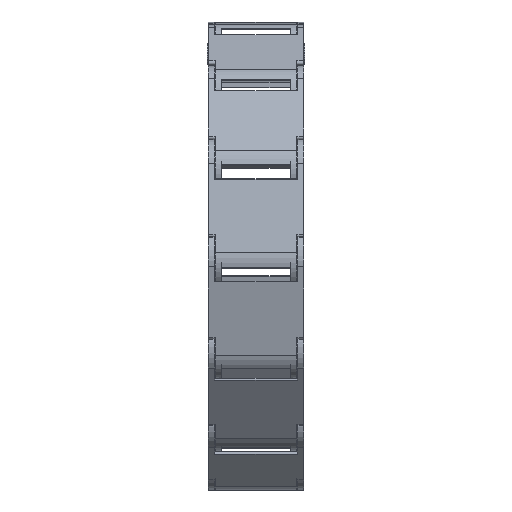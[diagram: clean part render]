
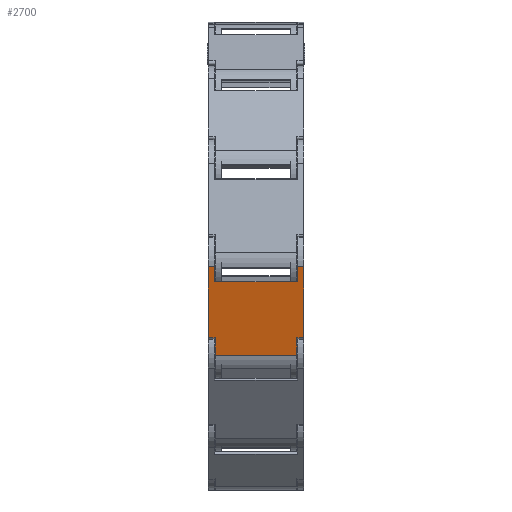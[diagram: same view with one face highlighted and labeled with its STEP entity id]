
A CAD part, front view. The second image highlights one B-rep face of the part: STEP entity #2700.
In plain terms, the highlighted planar face has unit normal (0, -0.972, -0.233) as drawn and (0, 0, -1) by its records, which use the part's own axes.
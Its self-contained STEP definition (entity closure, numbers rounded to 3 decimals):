
#340=DIRECTION('',(0.,1.,0.));
#341=VECTOR('',#340,26.775);
#342=CARTESIAN_POINT('',(-17.5,-33.5,-11.75));
#343=LINE('',#342,#341);
#424=DIRECTION('',(0.,1.,0.));
#425=VECTOR('',#424,6.725);
#426=CARTESIAN_POINT('',(-15.,-6.725,-11.75));
#427=LINE('',#426,#425);
#592=DIRECTION('',(1.,0.,0.));
#593=VECTOR('',#592,30.);
#594=CARTESIAN_POINT('',(-15.,0.,-11.75));
#595=LINE('',#594,#593);
#760=DIRECTION('',(0.,1.,0.));
#761=VECTOR('',#760,5.672);
#762=CARTESIAN_POINT('',(15.1,-33.5,-11.75));
#763=LINE('',#762,#761);
#928=DIRECTION('',(0.,-1.,0.));
#929=VECTOR('',#928,5.672);
#930=CARTESIAN_POINT('',(-15.1,-27.828,-11.75));
#931=LINE('',#930,#929);
#1112=DIRECTION('',(0.,-1.,0.));
#1113=VECTOR('',#1112,6.725);
#1114=CARTESIAN_POINT('',(15.,0.,-11.75));
#1115=LINE('',#1114,#1113);
#1219=DIRECTION('',(0.,1.,0.));
#1220=VECTOR('',#1219,26.775);
#1221=CARTESIAN_POINT('',(17.5,-33.5,-11.75));
#1222=LINE('',#1221,#1220);
#1299=DIRECTION('',(1.,0.,0.));
#1300=VECTOR('',#1299,2.5);
#1301=CARTESIAN_POINT('',(-17.5,-6.725,-11.75));
#1302=LINE('',#1301,#1300);
#1306=DIRECTION('',(1.,0.,0.));
#1307=VECTOR('',#1306,2.4);
#1308=CARTESIAN_POINT('',(-17.5,-33.5,-11.75));
#1309=LINE('',#1308,#1307);
#1313=DIRECTION('',(-1.,0.,0.));
#1314=VECTOR('',#1313,30.2);
#1315=CARTESIAN_POINT('',(15.1,-27.828,-11.75));
#1316=LINE('',#1315,#1314);
#1320=DIRECTION('',(1.,0.,0.));
#1321=VECTOR('',#1320,2.4);
#1322=CARTESIAN_POINT('',(15.1,-33.5,-11.75));
#1323=LINE('',#1322,#1321);
#1327=DIRECTION('',(1.,0.,0.));
#1328=VECTOR('',#1327,2.5);
#1329=CARTESIAN_POINT('',(15.,-6.725,-11.75));
#1330=LINE('',#1329,#1328);
#1462=CARTESIAN_POINT('',(-17.5,-33.5,-11.75));
#1464=VERTEX_POINT('',#1462);
#1466=CARTESIAN_POINT('',(17.5,-33.5,-11.75));
#1468=VERTEX_POINT('',#1466);
#1473=CARTESIAN_POINT('',(-15.1,-33.5,-11.75));
#1474=VERTEX_POINT('',#1473);
#1475=CARTESIAN_POINT('',(15.1,-33.5,-11.75));
#1476=VERTEX_POINT('',#1475);
#1493=CARTESIAN_POINT('',(15.1,-27.828,-11.75));
#1494=CARTESIAN_POINT('',(-15.1,-27.828,-11.75));
#1495=VERTEX_POINT('',#1493);
#1496=VERTEX_POINT('',#1494);
#1545=CARTESIAN_POINT('',(-15.,0.,-11.75));
#1546=CARTESIAN_POINT('',(15.,0.,-11.75));
#1547=VERTEX_POINT('',#1545);
#1548=VERTEX_POINT('',#1546);
#1557=CARTESIAN_POINT('',(-17.5,-6.725,-11.75));
#1558=VERTEX_POINT('',#1557);
#1559=CARTESIAN_POINT('',(-15.,-6.725,-11.75));
#1560=VERTEX_POINT('',#1559);
#1561=CARTESIAN_POINT('',(17.5,-6.725,-11.75));
#1563=VERTEX_POINT('',#1561);
#1567=CARTESIAN_POINT('',(15.,-6.725,-11.75));
#1568=VERTEX_POINT('',#1567);
#2679=CARTESIAN_POINT('',(-17.5,-33.5,-11.75));
#2680=DIRECTION('',(0.,0.,-1.));
#2681=DIRECTION('',(0.,1.,0.));
#2682=AXIS2_PLACEMENT_3D('',#2679,#2680,#2681);
#2683=PLANE('',#2682);
#2685=ORIENTED_EDGE('',*,*,#2684,.F.);
#2686=ORIENTED_EDGE('',*,*,#1697,.F.);
#2687=ORIENTED_EDGE('',*,*,#2198,.T.);
#2688=ORIENTED_EDGE('',*,*,#2254,.F.);
#2690=ORIENTED_EDGE('',*,*,#2689,.F.);
#2691=ORIENTED_EDGE('',*,*,#2155,.F.);
#2692=ORIENTED_EDGE('',*,*,#2221,.T.);
#2693=ORIENTED_EDGE('',*,*,#2501,.T.);
#2694=ORIENTED_EDGE('',*,*,#2458,.F.);
#2695=ORIENTED_EDGE('',*,*,#2407,.F.);
#2696=ORIENTED_EDGE('',*,*,#1977,.F.);
#2697=ORIENTED_EDGE('',*,*,#1774,.F.);
#2698=EDGE_LOOP('',(#2685,#2686,#2687,#2688,#2690,#2691,#2692,#2693,#2694,#2695,
#2696,#2697));
#2699=FACE_OUTER_BOUND('',#2698,.F.);
#2700=ADVANCED_FACE('',(#2699),#2683,.T.);
#1697=EDGE_CURVE('',#1464,#1558,#343,.T.);
#1774=EDGE_CURVE('',#1560,#1547,#427,.T.);
#1977=EDGE_CURVE('',#1547,#1548,#595,.T.);
#2155=EDGE_CURVE('',#1476,#1495,#763,.T.);
#2198=EDGE_CURVE('',#1464,#1474,#1309,.T.);
#2221=EDGE_CURVE('',#1476,#1468,#1323,.T.);
#2254=EDGE_CURVE('',#1496,#1474,#931,.T.);
#2407=EDGE_CURVE('',#1548,#1568,#1115,.T.);
#2458=EDGE_CURVE('',#1568,#1563,#1330,.T.);
#2501=EDGE_CURVE('',#1468,#1563,#1222,.T.);
#2684=EDGE_CURVE('',#1558,#1560,#1302,.T.);
#2689=EDGE_CURVE('',#1495,#1496,#1316,.T.);
